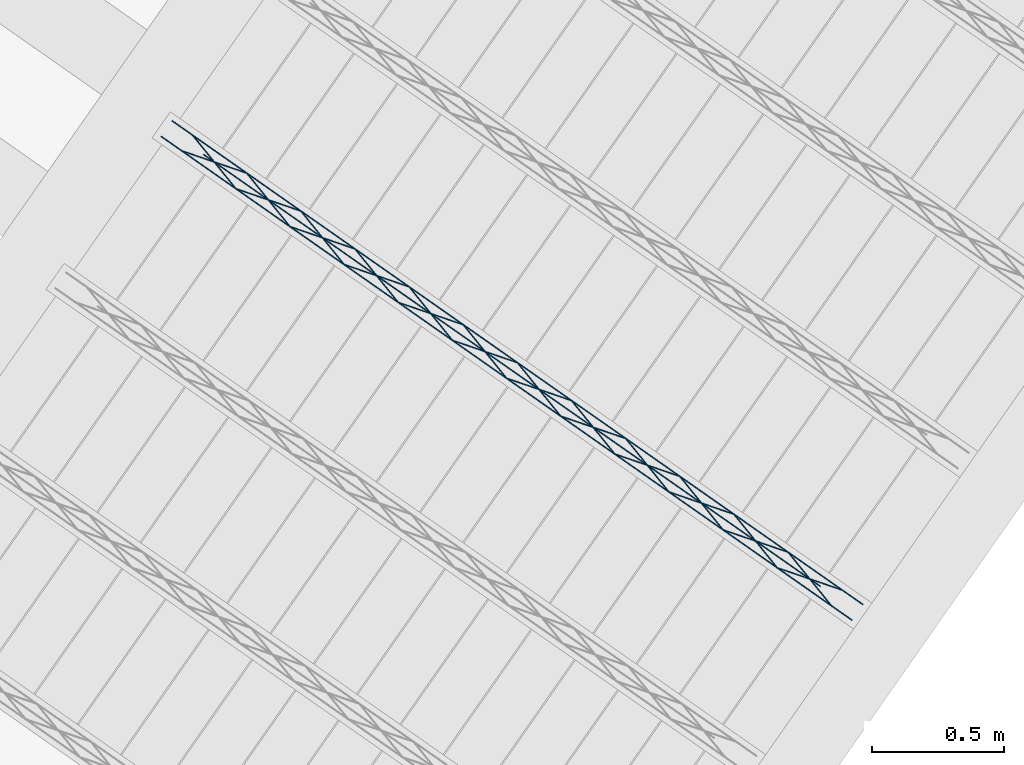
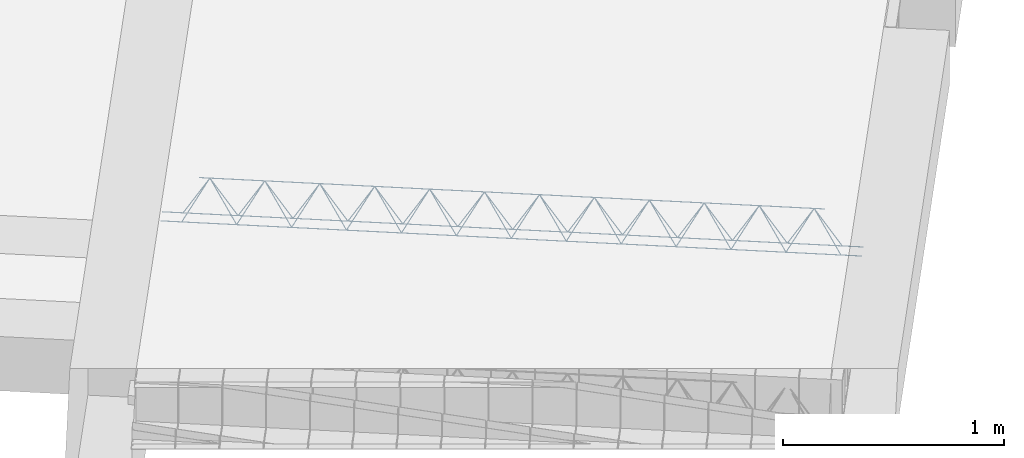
# One storey, part 7 of 46: 1 member.
"""IFC2X3 building model written with IfcOpenShell, lengths in metres."""

from ifc_helpers import new_model, entity, si_unit, converted_unit, derived_unit, direction, frame, origin, origin_2d_with_axis, place, context, subcontext, project, spatial, circle, extrude, type_object, element, save


model = new_model("IFC2X3")

# Units and contexts
model_context = context("Model", 3, precision=1e-05, world=origin(), true_north=direction((6.123031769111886e-17, 1.0)))
body_context = subcontext(model_context, "Body", "Model", "MODEL_VIEW")
ifc_project = project(units=[si_unit("LENGTHUNIT", "METRE"), si_unit("AREAUNIT", "SQUARE_METRE"), si_unit("VOLUMEUNIT", "CUBIC_METRE"), converted_unit("PLANEANGLEUNIT", "DEGREE", entity("IfcPlaneAngleMeasure", 0.017453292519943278), si_unit("PLANEANGLEUNIT", "RADIAN"), dimensions=[0, 0, 0, 0, 0, 0, 0]), si_unit("MASSUNIT", "GRAM", prefix="KILO"), derived_unit("MASSDENSITYUNIT", [(si_unit("MASSUNIT", "GRAM", prefix="KILO"), 1), (si_unit("LENGTHUNIT", "METRE"), -3)]), derived_unit("IONCONCENTRATIONUNIT", [(si_unit("MASSUNIT", "GRAM", prefix="KILO"), 1), (si_unit("LENGTHUNIT", "METRE"), -3)]), derived_unit("MOMENTOFINERTIAUNIT", [(si_unit("LENGTHUNIT", "METRE"), 4)]), si_unit("TIMEUNIT", "SECOND"), si_unit("FREQUENCYUNIT", "HERTZ"), si_unit("THERMODYNAMICTEMPERATUREUNIT", "DEGREE_CELSIUS"), derived_unit("THERMALTRANSMITTANCEUNIT", [(si_unit("MASSUNIT", "GRAM", prefix="KILO"), 1), (si_unit("THERMODYNAMICTEMPERATUREUNIT", "KELVIN"), -1), (si_unit("TIMEUNIT", "SECOND"), -3)]), derived_unit("THERMALCONDUCTANCEUNIT", [(si_unit("MASSUNIT", "GRAM", prefix="KILO"), 1), (si_unit("THERMODYNAMICTEMPERATUREUNIT", "KELVIN"), -1), (si_unit("TIMEUNIT", "SECOND"), -3), (si_unit("LENGTHUNIT", "METRE"), 1)]), derived_unit("VOLUMETRICFLOWRATEUNIT", [(si_unit("LENGTHUNIT", "METRE", prefix="DECI"), 3), (si_unit("TIMEUNIT", "SECOND"), -1)]), derived_unit("MASSFLOWRATEUNIT", [(si_unit("MASSUNIT", "GRAM", prefix="KILO"), 1), (si_unit("TIMEUNIT", "SECOND"), -1)]), derived_unit("ROTATIONALFREQUENCYUNIT", [(si_unit("TIMEUNIT", "SECOND"), -1)]), si_unit("ELECTRICCURRENTUNIT", "AMPERE"), si_unit("ELECTRICVOLTAGEUNIT", "VOLT"), si_unit("POWERUNIT", "WATT"), si_unit("FORCEUNIT", "NEWTON", prefix="KILO"), si_unit("ILLUMINANCEUNIT", "LUX"), si_unit("LUMINOUSFLUXUNIT", "LUMEN"), si_unit("LUMINOUSINTENSITYUNIT", "CANDELA"), si_unit("ENERGYUNIT", "JOULE"), derived_unit("USERDEFINED", [(si_unit("MASSUNIT", "GRAM", prefix="KILO"), -1), (si_unit("LENGTHUNIT", "METRE"), -2), (si_unit("TIMEUNIT", "SECOND"), 3), (si_unit("LUMINOUSFLUXUNIT", "LUMEN"), 1)]), derived_unit("USERDEFINED", [(si_unit("MASSUNIT", "GRAM", prefix="KILO"), 1), (si_unit("TIMEUNIT", "SECOND"), -3), (si_unit("LENGTHUNIT", "METRE"), 3), (si_unit("ELECTRICCURRENTUNIT", "AMPERE"), -2)]), derived_unit("SOUNDPOWERUNIT", [(si_unit("MASSUNIT", "GRAM", prefix="KILO"), 1), (si_unit("TIMEUNIT", "SECOND"), -3), (si_unit("LENGTHUNIT", "METRE"), 2)]), derived_unit("SOUNDPRESSUREUNIT", [(si_unit("MASSUNIT", "GRAM", prefix="KILO"), 1), (si_unit("LENGTHUNIT", "METRE"), -1), (si_unit("TIMEUNIT", "SECOND"), -2)]), derived_unit("LINEARVELOCITYUNIT", [(si_unit("LENGTHUNIT", "METRE"), 1), (si_unit("TIMEUNIT", "SECOND"), -1)]), si_unit("PRESSUREUNIT", "PASCAL"), derived_unit("USERDEFINED", [(si_unit("MASSUNIT", "GRAM", prefix="KILO"), 1), (si_unit("LENGTHUNIT", "METRE"), -2), (si_unit("TIMEUNIT", "SECOND"), -2)]), derived_unit("LINEARFORCEUNIT", [(si_unit("MASSUNIT", "GRAM", prefix="KILO"), 1), (si_unit("TIMEUNIT", "SECOND"), -2)]), derived_unit("PLANARFORCEUNIT", [(si_unit("MASSUNIT", "GRAM", prefix="KILO"), 1), (si_unit("LENGTHUNIT", "METRE"), -1), (si_unit("TIMEUNIT", "SECOND"), -2)]), derived_unit("SPECIFICHEATCAPACITYUNIT", [(si_unit("THERMODYNAMICTEMPERATUREUNIT", "KELVIN"), -1), (si_unit("LENGTHUNIT", "METRE"), 2), (si_unit("TIMEUNIT", "SECOND"), -2)]), derived_unit("HEATFLUXDENSITYUNIT", [(si_unit("MASSUNIT", "GRAM", prefix="KILO"), 1), (si_unit("TIMEUNIT", "SECOND"), -3)]), derived_unit("HEATINGVALUEUNIT", [(si_unit("LENGTHUNIT", "METRE"), 2), (si_unit("TIMEUNIT", "SECOND"), -2)]), derived_unit("VAPORPERMEABILITYUNIT", [(si_unit("LENGTHUNIT", "METRE"), -1), (si_unit("TIMEUNIT", "SECOND"), 1)]), derived_unit("DYNAMICVISCOSITYUNIT", [(si_unit("MASSUNIT", "GRAM", prefix="KILO"), 1), (si_unit("TIMEUNIT", "SECOND"), -1), (si_unit("LENGTHUNIT", "METRE"), -1)]), derived_unit("THERMALEXPANSIONCOEFFICIENTUNIT", [(si_unit("THERMODYNAMICTEMPERATUREUNIT", "KELVIN"), -1)]), derived_unit("MODULUSOFELASTICITYUNIT", [(si_unit("MASSUNIT", "GRAM", prefix="KILO"), 1), (si_unit("LENGTHUNIT", "METRE"), -1), (si_unit("TIMEUNIT", "SECOND"), -2)]), derived_unit("ISOTHERMALMOISTURECAPACITYUNIT", [(si_unit("MASSUNIT", "GRAM", prefix="KILO"), -1), (si_unit("LENGTHUNIT", "METRE"), 3)]), derived_unit("MOISTUREDIFFUSIVITYUNIT", [(si_unit("TIMEUNIT", "SECOND"), -1), (si_unit("LENGTHUNIT", "METRE"), 2)]), derived_unit("MASSPERLENGTHUNIT", [(si_unit("MASSUNIT", "GRAM", prefix="KILO"), 1), (si_unit("LENGTHUNIT", "METRE"), -1)]), derived_unit("THERMALRESISTANCEUNIT", [(si_unit("MASSUNIT", "GRAM", prefix="KILO"), -1), (si_unit("TIMEUNIT", "SECOND"), 3), (si_unit("THERMODYNAMICTEMPERATUREUNIT", "KELVIN"), 1)]), derived_unit("ACCELERATIONUNIT", [(si_unit("LENGTHUNIT", "METRE"), 1), (si_unit("TIMEUNIT", "SECOND"), -2)]), derived_unit("ANGULARVELOCITYUNIT", [(si_unit("TIMEUNIT", "SECOND"), -1), (si_unit("PLANEANGLEUNIT", "RADIAN"), 1)]), derived_unit("LINEARSTIFFNESSUNIT", [(si_unit("MASSUNIT", "GRAM", prefix="KILO"), 1), (si_unit("TIMEUNIT", "SECOND"), -2)]), derived_unit("WARPINGCONSTANTUNIT", [(si_unit("LENGTHUNIT", "METRE"), 6)]), derived_unit("LINEARMOMENTUNIT", [(si_unit("MASSUNIT", "GRAM", prefix="KILO"), 1), (si_unit("LENGTHUNIT", "METRE"), 1), (si_unit("TIMEUNIT", "SECOND"), -2)]), derived_unit("TORQUEUNIT", [(si_unit("MASSUNIT", "GRAM", prefix="KILO"), 1), (si_unit("LENGTHUNIT", "METRE"), 2), (si_unit("TIMEUNIT", "SECOND"), -2)])], contexts=[model_context])

# Site, building, storey
site_placement = place(None, origin())
site = spatial("IfcSite", under=ifc_project, at=site_placement, Name="Default", CompositionType="ELEMENT")
building_placement = place(site_placement, origin())
building = spatial("IfcBuilding", under=site, at=building_placement, CompositionType="ELEMENT")
storey_placement = place(building_placement, frame((0.0, 0.0, 99.52000000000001)))
storey = spatial("IfcBuildingStorey", under=building, at=storey_placement, Name="F1", CompositionType="ELEMENT", Elevation=99.52000000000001)

# Member
member_type = type_object("IfcMemberType", Name="Celosía (Vigueta 4 - Paño 4)", PredefinedType="NOTDEFINED")
member_placement = place(storey_placement, origin())
element("IfcMember", 1, at=member_placement, inside=storey, type_object=member_type, Name="Celosía (Vigueta 4 - Paño 4)", context=body_context, shape_type="SweptSolid", body=[
    extrude(circle(Radius=0.0025, at=origin_2d_with_axis()), frame((5.6589406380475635, -2.1138356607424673, 0.22500000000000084), z_axis=(0.8191520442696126, -0.5735764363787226, 0.0), x_axis=(-0.5735764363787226, -0.8191520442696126, 0.0)), (0.0, 0.0, 1.0), 3.191999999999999),
    extrude(circle(Radius=0.0025, at=origin_2d_with_axis()), frame((5.819664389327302, -2.1824277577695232, 0.4500000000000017), z_axis=(0.8191520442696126, -0.5735764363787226, 0.0), x_axis=(-0.5735764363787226, -0.8191520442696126, 0.0)), (0.0, 0.0, 1.0), 2.849999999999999),
    extrude(circle(Radius=0.0025, at=origin_2d_with_axis()), frame((8.195035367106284, -3.8896283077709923, 0.22500000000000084), z_axis=(-0.3145304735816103, 0.389334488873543, 0.8657304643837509), x_axis=(-0.7778747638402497, -0.6284193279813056, 0.0)), (0.0, 0.0, 1.0), 0.2598961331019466),
    extrude(circle(Radius=0.0025, at=origin_2d_with_axis()), frame((7.990247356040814, -3.7462341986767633, 0.22499999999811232), z_axis=(0.47343050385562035, -0.1624017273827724, 0.8657304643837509), x_axis=(-0.3244721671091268, -0.9458952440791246, 0.0)), (0.0, 0.0, 1.0), 0.25989613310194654),
    extrude(circle(Radius=0.0025, at=origin_2d_with_axis()), frame((7.990247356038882, -3.746234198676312, 0.22500000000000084), z_axis=(-0.3145304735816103, 0.389334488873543, 0.8657304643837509), x_axis=(-0.7778747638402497, -0.6284193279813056, 0.0)), (0.0, 0.0, 1.0), 0.2598961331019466),
    extrude(circle(Radius=0.0025, at=origin_2d_with_axis()), frame((7.78545934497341, -3.6028400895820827, 0.22499999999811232), z_axis=(0.47343050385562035, -0.1624017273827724, 0.8657304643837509), x_axis=(-0.3244721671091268, -0.9458952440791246, 0.0)), (0.0, 0.0, 1.0), 0.25989613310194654),
    extrude(circle(Radius=0.0025, at=origin_2d_with_axis()), frame((7.785459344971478, -3.602840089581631, 0.22500000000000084), z_axis=(-0.3145304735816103, 0.389334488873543, 0.8657304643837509), x_axis=(-0.7778747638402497, -0.6284193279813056, 0.0)), (0.0, 0.0, 1.0), 0.2598961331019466),
    extrude(circle(Radius=0.0025, at=origin_2d_with_axis()), frame((7.5806713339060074, -3.4594459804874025, 0.22499999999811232), z_axis=(0.47343050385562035, -0.1624017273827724, 0.8657304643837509), x_axis=(-0.3244721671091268, -0.9458952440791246, 0.0)), (0.0, 0.0, 1.0), 0.25989613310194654),
    extrude(circle(Radius=0.0025, at=origin_2d_with_axis()), frame((7.580671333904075, -3.4594459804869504, 0.22500000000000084), z_axis=(-0.3145304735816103, 0.389334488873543, 0.8657304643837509), x_axis=(-0.7778747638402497, -0.6284193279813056, 0.0)), (0.0, 0.0, 1.0), 0.2598961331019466),
    extrude(circle(Radius=0.0025, at=origin_2d_with_axis()), frame((7.375883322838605, -3.3160518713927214, 0.22499999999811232), z_axis=(0.47343050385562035, -0.1624017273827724, 0.8657304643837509), x_axis=(-0.3244721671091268, -0.9458952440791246, 0.0)), (0.0, 0.0, 1.0), 0.25989613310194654),
    extrude(circle(Radius=0.0025, at=origin_2d_with_axis()), frame((7.375883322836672, -3.3160518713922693, 0.22500000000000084), z_axis=(-0.3145304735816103, 0.389334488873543, 0.8657304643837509), x_axis=(-0.7778747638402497, -0.6284193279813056, 0.0)), (0.0, 0.0, 1.0), 0.2598961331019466),
    extrude(circle(Radius=0.0025, at=origin_2d_with_axis()), frame((7.171095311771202, -3.1726577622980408, 0.22499999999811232), z_axis=(0.47343050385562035, -0.1624017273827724, 0.8657304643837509), x_axis=(-0.3244721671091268, -0.9458952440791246, 0.0)), (0.0, 0.0, 1.0), 0.25989613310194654),
    extrude(circle(Radius=0.0025, at=origin_2d_with_axis()), frame((7.171095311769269, -3.172657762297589, 0.22500000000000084), z_axis=(-0.3145304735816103, 0.389334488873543, 0.8657304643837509), x_axis=(-0.7778747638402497, -0.6284193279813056, 0.0)), (0.0, 0.0, 1.0), 0.2598961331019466),
    extrude(circle(Radius=0.0025, at=origin_2d_with_axis()), frame((6.966307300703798, -3.0292636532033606, 0.22499999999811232), z_axis=(0.47343050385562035, -0.1624017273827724, 0.8657304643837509), x_axis=(-0.3244721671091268, -0.9458952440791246, 0.0)), (0.0, 0.0, 1.0), 0.25989613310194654),
    extrude(circle(Radius=0.0025, at=origin_2d_with_axis()), frame((6.966307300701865, -3.029263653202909, 0.22500000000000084), z_axis=(-0.3145304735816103, 0.389334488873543, 0.8657304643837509), x_axis=(-0.7778747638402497, -0.6284193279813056, 0.0)), (0.0, 0.0, 1.0), 0.2598961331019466),
    extrude(circle(Radius=0.0025, at=origin_2d_with_axis()), frame((6.761519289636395, -2.8858695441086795, 0.22499999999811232), z_axis=(0.47343050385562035, -0.1624017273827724, 0.8657304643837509), x_axis=(-0.3244721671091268, -0.9458952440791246, 0.0)), (0.0, 0.0, 1.0), 0.25989613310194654),
    extrude(circle(Radius=0.0025, at=origin_2d_with_axis()), frame((6.761519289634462, -2.885869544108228, 0.22500000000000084), z_axis=(-0.3145304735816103, 0.389334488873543, 0.8657304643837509), x_axis=(-0.7778747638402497, -0.6284193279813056, 0.0)), (0.0, 0.0, 1.0), 0.2598961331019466),
    extrude(circle(Radius=0.0025, at=origin_2d_with_axis()), frame((6.556731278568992, -2.742475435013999, 0.22499999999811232), z_axis=(0.47343050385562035, -0.1624017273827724, 0.8657304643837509), x_axis=(-0.3244721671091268, -0.9458952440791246, 0.0)), (0.0, 0.0, 1.0), 0.25989613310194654),
    extrude(circle(Radius=0.0025, at=origin_2d_with_axis()), frame((6.556731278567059, -2.742475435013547, 0.22500000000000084), z_axis=(-0.3145304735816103, 0.389334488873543, 0.8657304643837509), x_axis=(-0.7778747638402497, -0.6284193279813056, 0.0)), (0.0, 0.0, 1.0), 0.2598961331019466),
    extrude(circle(Radius=0.0025, at=origin_2d_with_axis()), frame((6.351943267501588, -2.599081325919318, 0.22499999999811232), z_axis=(0.47343050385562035, -0.1624017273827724, 0.8657304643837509), x_axis=(-0.3244721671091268, -0.9458952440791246, 0.0)), (0.0, 0.0, 1.0), 0.25989613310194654),
    extrude(circle(Radius=0.0025, at=origin_2d_with_axis()), frame((6.3519432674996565, -2.599081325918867, 0.22500000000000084), z_axis=(-0.3145304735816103, 0.389334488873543, 0.8657304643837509), x_axis=(-0.7778747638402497, -0.6284193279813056, 0.0)), (0.0, 0.0, 1.0), 0.2598961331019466),
    extrude(circle(Radius=0.0025, at=origin_2d_with_axis()), frame((6.147155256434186, -2.455687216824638, 0.22499999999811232), z_axis=(0.47343050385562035, -0.1624017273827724, 0.8657304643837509), x_axis=(-0.3244721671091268, -0.9458952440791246, 0.0)), (0.0, 0.0, 1.0), 0.25989613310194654),
    extrude(circle(Radius=0.0025, at=origin_2d_with_axis()), frame((6.147155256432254, -2.455687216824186, 0.22500000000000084), z_axis=(-0.3145304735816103, 0.389334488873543, 0.8657304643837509), x_axis=(-0.7778747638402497, -0.6284193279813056, 0.0)), (0.0, 0.0, 1.0), 0.2598961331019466),
    extrude(circle(Radius=0.0025, at=origin_2d_with_axis()), frame((5.942367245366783, -2.3122931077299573, 0.22499999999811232), z_axis=(0.47343050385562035, -0.1624017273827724, 0.8657304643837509), x_axis=(-0.3244721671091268, -0.9458952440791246, 0.0)), (0.0, 0.0, 1.0), 0.25989613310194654),
    extrude(circle(Radius=0.0025, at=origin_2d_with_axis()), frame((5.942367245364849, -2.3122931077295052, 0.22500000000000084), z_axis=(-0.3145304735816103, 0.389334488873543, 0.8657304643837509), x_axis=(-0.7778747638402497, -0.6284193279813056, 0.0)), (0.0, 0.0, 1.0), 0.2598961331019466),
    extrude(circle(Radius=0.0025, at=origin_2d_with_axis()), frame((5.73757923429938, -2.1688989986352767, 0.22499999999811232), z_axis=(0.47343050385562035, -0.1624017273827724, 0.8657304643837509), x_axis=(-0.3244721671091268, -0.9458952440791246, 0.0)), (0.0, 0.0, 1.0), 0.25989613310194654),
    extrude(circle(Radius=0.0025, at=origin_2d_with_axis()), frame((5.700238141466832, -2.0548567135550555, 0.22500000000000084), z_axis=(0.8191520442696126, -0.5735764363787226, 0.0), x_axis=(-0.5735764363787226, -0.8191520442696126, 0.0)), (0.0, 0.0, 1.0), 3.191999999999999),
    extrude(circle(Radius=0.0025, at=origin_2d_with_axis()), frame((8.236332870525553, -3.8306493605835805, 0.22500000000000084), z_axis=(-0.47343050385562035, 0.1624017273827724, 0.8657304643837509), x_axis=(-0.3244721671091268, -0.9458952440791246, 0.0)), (0.0, 0.0, 1.0), 0.25989613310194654),
    extrude(circle(Radius=0.0025, at=origin_2d_with_axis()), frame((8.031544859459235, -3.6872552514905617, 0.22499999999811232), z_axis=(0.3145304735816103, -0.389334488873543, 0.8657304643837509), x_axis=(-0.7778747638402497, -0.6284193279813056, 0.0)), (0.0, 0.0, 1.0), 0.2598961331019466),
    extrude(circle(Radius=0.0025, at=origin_2d_with_axis()), frame((8.03154485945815, -3.6872552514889, 0.22500000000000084), z_axis=(-0.47343050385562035, 0.1624017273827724, 0.8657304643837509), x_axis=(-0.3244721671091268, -0.9458952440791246, 0.0)), (0.0, 0.0, 1.0), 0.25989613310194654),
    extrude(circle(Radius=0.0025, at=origin_2d_with_axis()), frame((7.826756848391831, -3.543861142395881, 0.22499999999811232), z_axis=(0.3145304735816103, -0.389334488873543, 0.8657304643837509), x_axis=(-0.7778747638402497, -0.6284193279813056, 0.0)), (0.0, 0.0, 1.0), 0.2598961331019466),
    extrude(circle(Radius=0.0025, at=origin_2d_with_axis()), frame((7.826756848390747, -3.5438611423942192, 0.22500000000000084), z_axis=(-0.47343050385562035, 0.1624017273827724, 0.8657304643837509), x_axis=(-0.3244721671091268, -0.9458952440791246, 0.0)), (0.0, 0.0, 1.0), 0.25989613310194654),
    extrude(circle(Radius=0.0025, at=origin_2d_with_axis()), frame((7.621968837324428, -3.4004670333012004, 0.22499999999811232), z_axis=(0.3145304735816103, -0.389334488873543, 0.8657304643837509), x_axis=(-0.7778747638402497, -0.6284193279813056, 0.0)), (0.0, 0.0, 1.0), 0.2598961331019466),
    extrude(circle(Radius=0.0025, at=origin_2d_with_axis()), frame((7.621968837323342, -3.400467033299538, 0.22500000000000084), z_axis=(-0.47343050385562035, 0.1624017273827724, 0.8657304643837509), x_axis=(-0.3244721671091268, -0.9458952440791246, 0.0)), (0.0, 0.0, 1.0), 0.25989613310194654),
    extrude(circle(Radius=0.0025, at=origin_2d_with_axis()), frame((7.417180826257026, -3.2570729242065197, 0.22499999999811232), z_axis=(0.3145304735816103, -0.389334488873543, 0.8657304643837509), x_axis=(-0.7778747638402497, -0.6284193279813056, 0.0)), (0.0, 0.0, 1.0), 0.2598961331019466),
    extrude(circle(Radius=0.0025, at=origin_2d_with_axis()), frame((7.417180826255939, -3.2570729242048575, 0.22500000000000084), z_axis=(-0.47343050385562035, 0.1624017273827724, 0.8657304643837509), x_axis=(-0.3244721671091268, -0.9458952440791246, 0.0)), (0.0, 0.0, 1.0), 0.25989613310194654),
    extrude(circle(Radius=0.0025, at=origin_2d_with_axis()), frame((7.212392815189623, -3.1136788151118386, 0.22499999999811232), z_axis=(0.3145304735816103, -0.389334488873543, 0.8657304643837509), x_axis=(-0.7778747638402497, -0.6284193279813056, 0.0)), (0.0, 0.0, 1.0), 0.2598961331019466),
    extrude(circle(Radius=0.0025, at=origin_2d_with_axis()), frame((7.212392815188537, -3.1136788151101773, 0.22500000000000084), z_axis=(-0.47343050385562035, 0.1624017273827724, 0.8657304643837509), x_axis=(-0.3244721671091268, -0.9458952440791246, 0.0)), (0.0, 0.0, 1.0), 0.25989613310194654),
    extrude(circle(Radius=0.0025, at=origin_2d_with_axis()), frame((7.007604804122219, -2.9702847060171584, 0.22499999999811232), z_axis=(0.3145304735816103, -0.389334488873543, 0.8657304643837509), x_axis=(-0.7778747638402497, -0.6284193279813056, 0.0)), (0.0, 0.0, 1.0), 0.2598961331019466),
    extrude(circle(Radius=0.0025, at=origin_2d_with_axis()), frame((7.007604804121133, -2.970284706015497, 0.22500000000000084), z_axis=(-0.47343050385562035, 0.1624017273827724, 0.8657304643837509), x_axis=(-0.3244721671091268, -0.9458952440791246, 0.0)), (0.0, 0.0, 1.0), 0.25989613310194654),
    extrude(circle(Radius=0.0025, at=origin_2d_with_axis()), frame((6.802816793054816, -2.826890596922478, 0.22499999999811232), z_axis=(0.3145304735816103, -0.389334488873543, 0.8657304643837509), x_axis=(-0.7778747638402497, -0.6284193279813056, 0.0)), (0.0, 0.0, 1.0), 0.2598961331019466),
    extrude(circle(Radius=0.0025, at=origin_2d_with_axis()), frame((6.80281679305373, -2.826890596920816, 0.22500000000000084), z_axis=(-0.47343050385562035, 0.1624017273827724, 0.8657304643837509), x_axis=(-0.3244721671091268, -0.9458952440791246, 0.0)), (0.0, 0.0, 1.0), 0.25989613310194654),
    extrude(circle(Radius=0.0025, at=origin_2d_with_axis()), frame((6.598028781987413, -2.6834964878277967, 0.22499999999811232), z_axis=(0.3145304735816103, -0.389334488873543, 0.8657304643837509), x_axis=(-0.7778747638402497, -0.6284193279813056, 0.0)), (0.0, 0.0, 1.0), 0.2598961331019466),
    extrude(circle(Radius=0.0025, at=origin_2d_with_axis()), frame((6.598028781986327, -2.6834964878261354, 0.22500000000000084), z_axis=(-0.47343050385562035, 0.1624017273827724, 0.8657304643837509), x_axis=(-0.3244721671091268, -0.9458952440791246, 0.0)), (0.0, 0.0, 1.0), 0.25989613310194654),
    extrude(circle(Radius=0.0025, at=origin_2d_with_axis()), frame((6.393240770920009, -2.5401023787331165, 0.22499999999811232), z_axis=(0.3145304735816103, -0.389334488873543, 0.8657304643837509), x_axis=(-0.7778747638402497, -0.6284193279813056, 0.0)), (0.0, 0.0, 1.0), 0.2598961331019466),
    extrude(circle(Radius=0.0025, at=origin_2d_with_axis()), frame((6.393240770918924, -2.5401023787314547, 0.22500000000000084), z_axis=(-0.47343050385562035, 0.1624017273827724, 0.8657304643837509), x_axis=(-0.3244721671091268, -0.9458952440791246, 0.0)), (0.0, 0.0, 1.0), 0.25989613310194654),
    extrude(circle(Radius=0.0025, at=origin_2d_with_axis()), frame((6.1884527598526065, -2.3967082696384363, 0.22499999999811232), z_axis=(0.3145304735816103, -0.389334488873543, 0.8657304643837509), x_axis=(-0.7778747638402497, -0.6284193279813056, 0.0)), (0.0, 0.0, 1.0), 0.2598961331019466),
    extrude(circle(Radius=0.0025, at=origin_2d_with_axis()), frame((6.188452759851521, -2.396708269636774, 0.22500000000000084), z_axis=(-0.47343050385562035, 0.1624017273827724, 0.8657304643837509), x_axis=(-0.3244721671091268, -0.9458952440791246, 0.0)), (0.0, 0.0, 1.0), 0.25989613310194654),
    extrude(circle(Radius=0.0025, at=origin_2d_with_axis()), frame((5.983664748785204, -2.253314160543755, 0.22499999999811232), z_axis=(0.3145304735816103, -0.389334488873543, 0.8657304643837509), x_axis=(-0.7778747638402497, -0.6284193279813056, 0.0)), (0.0, 0.0, 1.0), 0.2598961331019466),
    extrude(circle(Radius=0.0025, at=origin_2d_with_axis()), frame((5.9836647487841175, -2.2533141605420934, 0.22500000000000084), z_axis=(-0.47343050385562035, 0.1624017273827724, 0.8657304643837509), x_axis=(-0.3244721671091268, -0.9458952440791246, 0.0)), (0.0, 0.0, 1.0), 0.25989613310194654),
    extrude(circle(Radius=0.0025, at=origin_2d_with_axis()), frame((5.778876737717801, -2.1099200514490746, 0.22499999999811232), z_axis=(0.3145304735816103, -0.389334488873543, 0.8657304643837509), x_axis=(-0.7778747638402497, -0.6284193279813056, 0.0)), (0.0, 0.0, 1.0), 0.2598961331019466),
])

save(model, "model.ifc")
